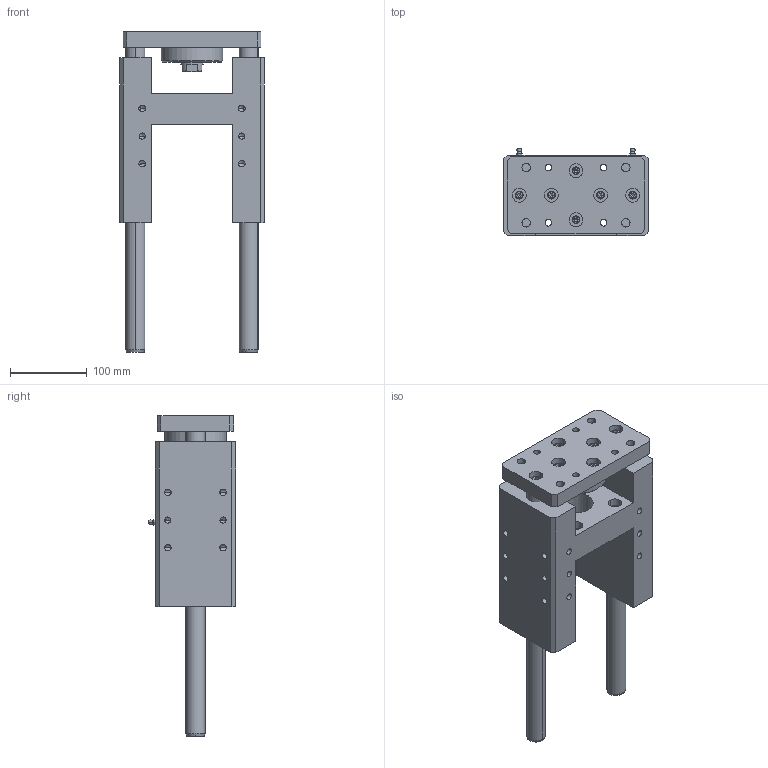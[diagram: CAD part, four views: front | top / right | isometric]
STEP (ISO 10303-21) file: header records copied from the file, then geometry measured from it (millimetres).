
FILE_DESCRIPTION (( 'STEP AP214' ), '1' );
FILE_NAME ('WHCR-080-0160 (3D).STEP', '2018-12-25T06:15:47', ( 'Hidtek' ), ( '' ), 'SwSTEP 2.0', 'SolidWorks 2016', '' );
FILE_SCHEMA (( 'AUTOMOTIVE_DESIGN' ));
Length unit declared in the file: millimetre
Products named in the file (4): Group2^WHCR-080-0160 (3D); Group1^WHCR-080-0160 (3D); Group3^WHCR-080-0160 (3D); WHCR-080-0160 (3D)
Assembly tree (3 placements, depth 2):
  WHCR-080-0160 (3D)
    Group1^WHCR-080-0160 (3D)
    Group2^WHCR-080-0160 (3D)
    Group3^WHCR-080-0160 (3D)
Bounding box: 189 x 114.05 x 418 mm (x, y, z)
Volume: 3011205.2 mm3; surface area: 327164.3 mm2
Topology: 14 solids, 14 shells, 653 faces, 1653 edges, 1044 vertices
Faces by surface type: plane 326, cylinder 140, bspline 107, cone 80
Entity records: 25820 total; most frequent: CARTESIAN_POINT 9507, ORIENTED_EDGE 3202, DIRECTION 2843, EDGE_CURVE 1601, VERTEX_POINT 1044, LINE 955, VECTOR 955, AXIS2_PLACEMENT_3D 944
